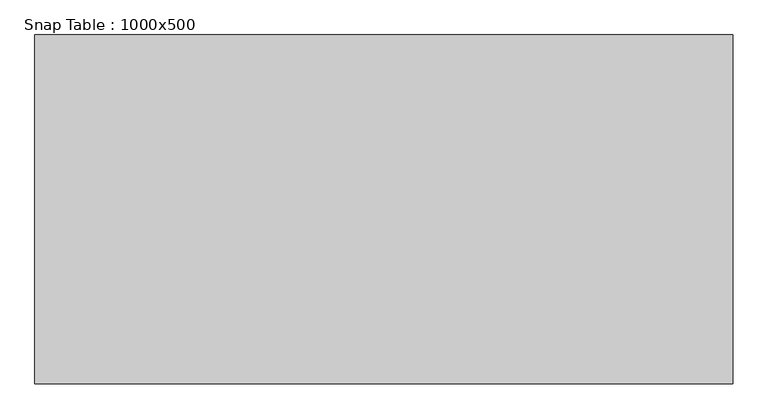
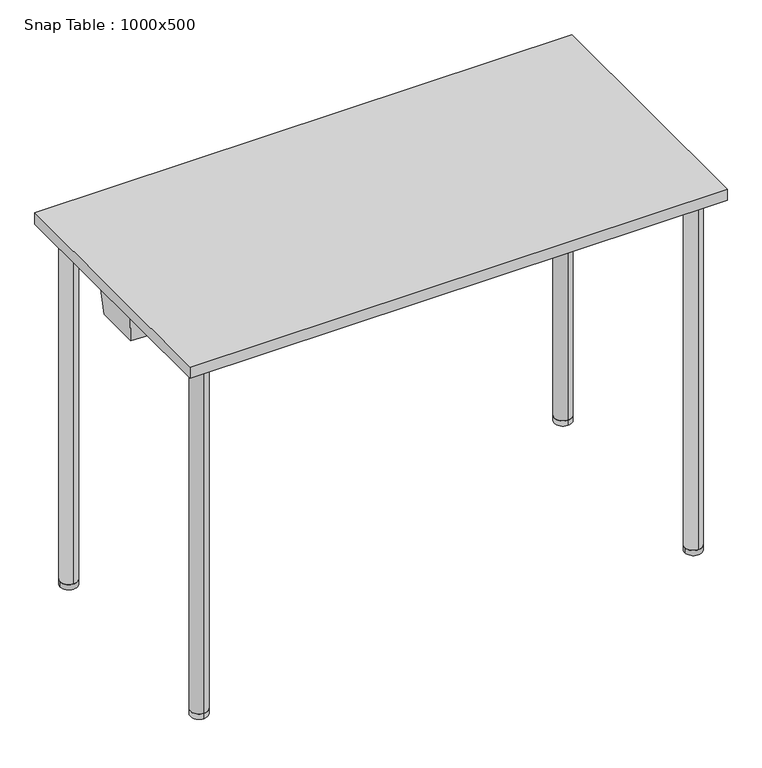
"""IFC4 building model written with IfcOpenShell, lengths in millimetres: furniture geometry, Snap Table : 1000x500."""

from ifc_helpers import new_model, si_unit, point, frame, frame_2d, origin, origin_with_axes, place, context, project, spatial, polyline, circle_curve, ellipse_curve, trimmed, segment, composite_curve, outline, extrude, faceted_brep, source, transform, mapped, element, save
from ifc_brep_helpers import plane_surface, cylinder_surface, revolved_surface, advanced_brep


def snap_table_1000x500_2eb462ae(model_context):
    return source(origin(), model_context, "Body", "SolidModel", [
        extrude(outline(composite_curve([segment(trimmed(circle_curve(frame_2d((460.0, -210.0)), 16.0), [point((476.0, -210.0))], [point((444.0, -210.0))], False, "CARTESIAN"), True, "CONTINUOUS"), segment(trimmed(circle_curve(frame_2d((460.0, -210.0)), 16.0), [point((444.0, -210.0))], [point((476.0, -210.0))], False, "CARTESIAN"), True, "CONTINUOUS")], self_intersect=False)), origin_with_axes(), (0.0, 0.0, 1.0), 10.0),
        extrude(outline(composite_curve([segment(trimmed(circle_curve(frame_2d((460.0, 210.0)), 16.0), [point((460.0, 194.0))], [point((460.0, 226.0))], False, "CARTESIAN"), True, "CONTINUOUS"), segment(trimmed(circle_curve(frame_2d((460.0, 210.0)), 16.0), [point((460.0, 226.0))], [point((460.0, 194.0))], False, "CARTESIAN"), True, "CONTINUOUS")], self_intersect=False)), origin_with_axes(), (0.0, 0.0, 1.0), 10.0),
        advanced_brep(
        [(460.0, -226.0, 10.0), (460.0, -194.0, 10.0), (460.0, -226.0, 689.0), (460.0, -194.0, 657.0), (460.0, 226.0, 689.0), (460.0, 194.0, 657.0), (460.0, 226.0, 10.0), (460.0, 194.0, 10.0)],
        [
            (0, 1, circle_curve(frame((460.0, -210.0, 10.0), z_axis=(0.0, 0.0, -1.0), x_axis=(0.0, 1.0, 0.0)), 16.0)),
            (1, 0, circle_curve(frame((460.0, -210.0, 10.0), z_axis=(0.0, 0.0, -1.0), x_axis=(0.0, 1.0, 0.0)), 16.0)),
            (0, 2),
            (2, 3, ellipse_curve(frame((460.0, -210.0, 673.0), z_axis=(0.0, -0.7071067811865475, -0.7071067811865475), x_axis=(0.0, 0.7071067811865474, -0.7071067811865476)), 22.627417, 16.0)),
            (3, 1),
            (3, 2, ellipse_curve(frame((460.0, -210.0, 673.0), z_axis=(0.0, -0.7071067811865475, -0.7071067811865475), x_axis=(0.0, 0.7071067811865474, -0.7071067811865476)), 22.627417, 16.0)),
            (2, 4),
            (4, 5, ellipse_curve(frame((460.0, 210.0, 673.0), z_axis=(0.0, -0.7071067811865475, 0.7071067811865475), x_axis=(0.0, -0.7071067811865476, -0.7071067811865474)), 22.627417, 16.0)),
            (5, 3),
            (5, 4, ellipse_curve(frame((460.0, 210.0, 673.0), z_axis=(0.0, -0.7071067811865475, 0.7071067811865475), x_axis=(0.0, -0.7071067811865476, -0.7071067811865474)), 22.627417, 16.0)),
            (6, 7, circle_curve(frame((460.0, 210.0, 10.0), z_axis=(0.0, 0.0, -1.0), x_axis=(0.0, -1.0, 0.0)), 16.0)),
            (7, 6, circle_curve(frame((460.0, 210.0, 10.0), z_axis=(0.0, 0.0, -1.0), x_axis=(0.0, -1.0, 0.0)), 16.0)),
            (4, 6),
            (7, 5),
        ],
        [
            plane_surface(frame((460.0, -210.0, 10.0), z_axis=(0.0, 0.0, -1.0), x_axis=(-1.0, 0.0, 0.0))),
            cylinder_surface(frame((460.0, -210.0, 10.0), z_axis=(0.0, 0.0, -1.0), x_axis=(0.0, 1.0, 0.0)), 16.0),
            cylinder_surface(frame((460.0, -210.0, 673.0), z_axis=(0.0, -1.0, 0.0), x_axis=(0.0, 0.0, -1.0)), 16.0),
            plane_surface(frame((460.0, 210.0, 10.0), z_axis=(0.0, 0.0, -1.0), x_axis=(-1.0, 0.0, 0.0))),
            cylinder_surface(frame((460.0, 210.0, 673.0), z_axis=(0.0, 0.0, 1.0), x_axis=(0.0, -1.0, 0.0)), 16.0),
        ],
        [
            (0, [[1, 2]]),
            (1, [[-1, 3, 4, 5]]),
            (1, [[-2, -5, 6, -3]]),
            (2, [[-4, 7, 8, 9]]),
            (2, [[-6, -9, 10, -7]]),
            (3, [[11, 12]]),
            (4, [[-8, 13, -12, 14]]),
            (4, [[-10, -14, -11, -13]]),
        ],
    ),
        extrude(outline(composite_curve([segment(trimmed(circle_curve(frame_2d((-460.0470276, 210.0)), 16.0), [point((-476.0470276, 210.0))], [point((-444.0470276, 210.0))], False, "CARTESIAN"), True, "CONTINUOUS"), segment(trimmed(circle_curve(frame_2d((-460.0470276, 210.0)), 16.0), [point((-444.0470276, 210.0))], [point((-476.0470276, 210.0))], False, "CARTESIAN"), True, "CONTINUOUS")], self_intersect=False)), origin_with_axes(), (0.0, 0.0, 1.0), 10.0),
        extrude(outline(composite_curve([segment(trimmed(circle_curve(frame_2d((-460.0470276, -210.0)), 16.0), [point((-460.0470276, -194.0))], [point((-460.0470276, -226.0))], False, "CARTESIAN"), True, "CONTINUOUS"), segment(trimmed(circle_curve(frame_2d((-460.0470276, -210.0)), 16.0), [point((-460.0470276, -226.0))], [point((-460.0470276, -194.0))], False, "CARTESIAN"), True, "CONTINUOUS")], self_intersect=False)), origin_with_axes(), (0.0, 0.0, 1.0), 10.0),
        advanced_brep(
        [(-460.0470276, 226.0, 10.0), (-460.0470276, 194.0, 10.0), (-460.0470276, 226.0, 689.0), (-460.0470276, 194.0, 657.0), (-460.0470276, -226.0, 689.0), (-460.0470276, -194.0, 657.0), (-460.0470276, -226.0, 10.0), (-460.0470276, -194.0, 10.0)],
        [
            (0, 1, circle_curve(frame((-460.0470276, 210.0, 10.0), z_axis=(0.0, 0.0, -1.0), x_axis=(0.0, -1.0, 0.0)), 16.0)),
            (1, 0, circle_curve(frame((-460.0470276, 210.0, 10.0), z_axis=(0.0, 0.0, -1.0), x_axis=(0.0, -1.0, 0.0)), 16.0)),
            (0, 2),
            (2, 3, ellipse_curve(frame((-460.0470276, 210.0, 673.0), z_axis=(0.0, 0.7071067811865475, -0.7071067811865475), x_axis=(0.0, -0.7071067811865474, -0.7071067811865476)), 22.627417, 16.0)),
            (3, 1),
            (3, 2, ellipse_curve(frame((-460.0470276, 210.0, 673.0), z_axis=(0.0, 0.7071067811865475, -0.7071067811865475), x_axis=(0.0, -0.7071067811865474, -0.7071067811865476)), 22.627417, 16.0)),
            (2, 4),
            (4, 5, ellipse_curve(frame((-460.0470276, -210.0, 673.0), z_axis=(0.0, 0.7071067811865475, 0.7071067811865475), x_axis=(0.0, 0.7071067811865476, -0.7071067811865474)), 22.627417, 16.0)),
            (5, 3),
            (5, 4, ellipse_curve(frame((-460.0470276, -210.0, 673.0), z_axis=(0.0, 0.7071067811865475, 0.7071067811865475), x_axis=(0.0, 0.7071067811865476, -0.7071067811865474)), 22.627417, 16.0)),
            (6, 7, circle_curve(frame((-460.0470276, -210.0, 10.0), z_axis=(0.0, 0.0, -1.0), x_axis=(0.0, 1.0, 0.0)), 16.0)),
            (7, 6, circle_curve(frame((-460.0470276, -210.0, 10.0), z_axis=(0.0, 0.0, -1.0), x_axis=(0.0, 1.0, 0.0)), 16.0)),
            (4, 6),
            (7, 5),
        ],
        [
            plane_surface(frame((-460.0470276, 210.0, 10.0), z_axis=(0.0, 0.0, -1.0), x_axis=(1.0, 0.0, 0.0))),
            cylinder_surface(frame((-460.0470276, 210.0, 10.0), z_axis=(0.0, 0.0, -1.0), x_axis=(0.0, -1.0, 0.0)), 16.0),
            cylinder_surface(frame((-460.0470276, 210.0, 673.0), z_axis=(0.0, 1.0, 0.0), x_axis=(0.0, 0.0, -1.0)), 16.0),
            plane_surface(frame((-460.0470276, -210.0, 10.0), z_axis=(0.0, 0.0, -1.0), x_axis=(1.0, 0.0, 0.0))),
            cylinder_surface(frame((-460.0470276, -210.0, 673.0), z_axis=(0.0, 0.0, 1.0), x_axis=(0.0, 1.0, 0.0)), 16.0),
        ],
        [
            (0, [[1, 2]]),
            (1, [[-1, 3, 4, 5]]),
            (1, [[-2, -5, 6, -3]]),
            (2, [[-4, 7, 8, 9]]),
            (2, [[-6, -9, 10, -7]]),
            (3, [[11, 12]]),
            (4, [[-8, 13, -12, 14]]),
            (4, [[-10, -14, -11, -13]]),
        ],
    ),
        extrude(outline(polyline([(500.0, 250.0), (500.0, -250.0), (-500.0, -250.0), (-500.0, 250.0), (500.0, 250.0)])), frame((0.0, 0.0, 698.0), z_axis=(0.0, 0.0, 1.0), x_axis=(1.0, 0.0, 0.0)), (0.0, 0.0, 1.0), 22.0),
        advanced_brep(
        [(-490.8110657, 42.2236058, 643.0), (-457.6910354, 44.5767873, 643.0), (-440.5708933, 36.0824003, 643.0), (440.5710292, 36.0824678, 643.0), (457.6910354, 44.5767873, 643.0), (490.8110657, 42.2236058, 643.0), (490.8110657, -42.2236058, 643.0), (457.6044607, -44.2417031, 643.0), (440.4018781, -36.0497649, 643.0), (-440.4020196, -36.0498323, 643.0), (-457.6044607, -44.2417031, 643.0), (-490.8110657, -42.2236058, 643.0), (-494.8110657, 48.9570516, 698.0), (-494.8110657, -48.9934252, 698.0), (-456.225892, -51.3383995, 698.0), (-434.6205129, -41.049832, 698.0), (434.6203726, -41.0497654, 698.0), (456.225892, -51.3383995, 698.0), (494.8110657, -48.9934252, 698.0), (494.8110657, 48.9570516, 698.0), (456.286594, 51.6942192, 698.0), (434.8989768, 41.0824675, 698.0), (-434.8988421, 41.0824008, 698.0), (-456.286594, 51.6942192, 698.0), (-457.2475737, -46.0789118, 657.2385232), (-476.0, -46.9489596, 673.0), (-456.4614069, -50.125999, 688.6037931), (-444.0, -41.9922101, 673.0), (457.2475737, -46.0789118, 657.2385232), (444.0, -41.9922101, 673.0), (456.4614069, -50.125999, 688.6037931), (476.0, -46.9489596, 673.0), (457.3278029, 46.4175782, 657.2247231), (476.0, 47.1037405, 673.0), (456.5261576, 50.4801582, 688.618336), (444.0, 42.0461233, 673.0), (-457.3278029, 46.4175782, 657.2247231), (-444.0, 42.0461233, 673.0), (-456.5261576, 50.4801582, 688.618336), (-476.0, 47.1037405, 673.0)],
        [
            (0, 1),
            (1, 2),
            (2, 3),
            (3, 4),
            (4, 5),
            (5, 6),
            (6, 7),
            (7, 8),
            (8, 9),
            (9, 10),
            (10, 11),
            (11, 0),
            (12, 13),
            (13, 14),
            (14, 15),
            (15, 16),
            (16, 17),
            (17, 18),
            (18, 19),
            (19, 20),
            (20, 21),
            (21, 22),
            (22, 23),
            (23, 12),
            (11, 13),
            (12, 0),
            (10, 24),
            (24, 25, ellipse_curve(frame((-460.0, -47.9213432, 673.0), z_axis=(0.0601766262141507, 0.9901710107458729, 0.126254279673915), x_axis=(0.42602826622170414, -0.13986196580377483, 0.8938336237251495)), 16.1588249, 16.0)),
            (25, 26, ellipse_curve(frame((-460.0, -47.9213432, 673.0), z_axis=(0.0601766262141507, 0.9901710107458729, 0.126254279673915), x_axis=(0.42602826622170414, -0.13986196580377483, 0.8938336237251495)), 16.1588249, 16.0)),
            (26, 14),
            (9, 15),
            (26, 27, ellipse_curve(frame((-460.0, -49.6114737, 673.0), z_axis=(-0.42650306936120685, 0.8956310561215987, 0.1262542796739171), x_axis=(-0.8587935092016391, -0.4447977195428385, 0.2542217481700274)), 17.8644989, 16.0)),
            (27, 24, ellipse_curve(frame((-460.0, -49.6114737, 673.0), z_axis=(-0.42650306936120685, 0.8956310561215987, 0.1262542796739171), x_axis=(-0.8587935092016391, -0.4447977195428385, 0.2542217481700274)), 17.8644989, 16.0)),
            (8, 16),
            (7, 28),
            (28, 29, ellipse_curve(frame((460.0, -49.6114737, 673.0), z_axis=(0.42650306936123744, 0.8956310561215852, 0.12625427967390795), x_axis=(0.8587935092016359, -0.4447977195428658, 0.25422174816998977)), 17.8644989, 16.0)),
            (29, 30, ellipse_curve(frame((460.0, -49.6114737, 673.0), z_axis=(0.42650306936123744, 0.8956310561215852, 0.12625427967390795), x_axis=(0.8587935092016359, -0.4447977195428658, 0.25422174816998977)), 17.8644989, 16.0)),
            (30, 17),
            (6, 18),
            (30, 31, ellipse_curve(frame((460.0, -47.9213432, 673.0), z_axis=(-0.06017662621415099, 0.9901710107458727, 0.12625427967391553), x_axis=(-0.4260282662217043, -0.13986196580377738, 0.8938336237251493)), 16.1588249, 16.0)),
            (31, 28, ellipse_curve(frame((460.0, -47.9213432, 673.0), z_axis=(-0.06017662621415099, 0.9901710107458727, 0.12625427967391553), x_axis=(-0.4260282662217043, -0.13986196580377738, 0.8938336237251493)), 16.1588249, 16.0)),
            (5, 19),
            (4, 32),
            (32, 33, ellipse_curve(frame((460.0, 48.2405422, 673.0), z_axis=(-0.07030432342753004, -0.9895034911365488, 0.12625427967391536), x_axis=(0.48139832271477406, -0.14450896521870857, -0.8645072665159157)), 16.1697257, 16.0)),
            (33, 34, ellipse_curve(frame((460.0, 48.2405422, 673.0), z_axis=(-0.07030432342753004, -0.9895034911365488, 0.12625427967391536), x_axis=(0.48139832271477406, -0.14450896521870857, -0.8645072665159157)), 16.1697257, 16.0)),
            (34, 20),
            (3, 21),
            (34, 35, ellipse_curve(frame((460.0, 49.9847369, 673.0), z_axis=(0.44090536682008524, -0.8886294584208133, 0.12625427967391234), x_axis=(-0.854294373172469, -0.4586258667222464, -0.2446291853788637)), 18.005255, 16.0)),
            (35, 32, ellipse_curve(frame((460.0, 49.9847369, 673.0), z_axis=(0.44090536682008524, -0.8886294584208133, 0.12625427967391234), x_axis=(-0.854294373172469, -0.4586258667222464, -0.2446291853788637)), 18.005255, 16.0)),
            (2, 22),
            (1, 36),
            (36, 37, ellipse_curve(frame((-460.0, 49.9847369, 673.0), z_axis=(-0.4409053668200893, -0.88862945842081, 0.12625427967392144), x_axis=(0.8542943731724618, -0.4586258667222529, -0.24462918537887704)), 18.005255, 16.0)),
            (37, 38, ellipse_curve(frame((-460.0, 49.9847369, 673.0), z_axis=(-0.4409053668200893, -0.88862945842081, 0.12625427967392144), x_axis=(0.8542943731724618, -0.4586258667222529, -0.24462918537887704)), 18.005255, 16.0)),
            (38, 23),
            (38, 39, ellipse_curve(frame((-460.0, 48.2405422, 673.0), z_axis=(0.07030432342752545, -0.9895034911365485, 0.12625427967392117), x_axis=(-0.481398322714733, -0.14450896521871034, -0.8645072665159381)), 16.1697257, 16.0)),
            (39, 36, ellipse_curve(frame((-460.0, 48.2405422, 673.0), z_axis=(0.07030432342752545, -0.9895034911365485, 0.12625427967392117), x_axis=(-0.481398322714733, -0.14450896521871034, -0.8645072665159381)), 16.1697257, 16.0)),
            (35, 29),
            (31, 33),
            (39, 25),
            (27, 37),
        ],
        [
            plane_surface(frame((-5e-07, 0.0612866, 643.0), z_axis=(0.0, 0.0, -1.0), x_axis=(0.0, -1.0, 0.0))),
            plane_surface(frame((-5e-07, 0.0586803, 698.0), z_axis=(0.0, 0.0, 1.0), x_axis=(0.0, -1.0, 0.0))),
            plane_surface(frame((-494.8110657, -0.0181868, 698.0), z_axis=(-0.997365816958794, 0.0, -0.07253569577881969), x_axis=(0.0, 1.0, 0.0))),
            plane_surface(frame((-475.5184789, -50.1659123, 698.0), z_axis=(-0.0601766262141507, -0.9901710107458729, -0.126254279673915), x_axis=(-0.9981583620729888, 0.06066204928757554, 0.0))),
            plane_surface(frame((-445.4232025, -46.1941158, 698.0), z_axis=(0.42650306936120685, -0.8956310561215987, -0.1262542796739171), x_axis=(-0.9028557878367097, -0.4299435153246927, 0.0))),
            plane_surface(frame((-7.01e-05, -41.0497986, 698.0), z_axis=(7.621604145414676e-08, -0.9958932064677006, -0.09053574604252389), x_axis=(-0.9999999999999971, -7.653033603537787e-08, 0.0))),
            plane_surface(frame((445.4231323, -46.1940824, 698.0), z_axis=(-0.42650306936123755, -0.8956310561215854, -0.12625427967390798), x_axis=(-0.9028557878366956, 0.4299435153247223, 0.0))),
            plane_surface(frame((475.5184789, -50.1659123, 698.0), z_axis=(0.060176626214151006, -0.9901710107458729, -0.12625427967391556), x_axis=(-0.9981583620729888, -0.06066204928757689, 0.0))),
            plane_surface(frame((494.8110657, -0.0181868, 698.0), z_axis=(0.9973658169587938, 0.0, -0.07253569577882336), x_axis=(0.0, -1.0, 0.0))),
            plane_surface(frame((475.5488298, 50.3256354, 698.0), z_axis=(0.07030432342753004, 0.9895034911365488, -0.12625427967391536), x_axis=(0.9974854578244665, -0.07087144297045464, 0.0))),
            plane_surface(frame((445.5927854, 46.3883433, 698.0), z_axis=(-0.44090536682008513, 0.8886294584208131, -0.1262542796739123), x_axis=(0.8957977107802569, 0.44446199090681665, 0.0))),
            plane_surface(frame((6.73e-05, 41.082434, 698.0), z_axis=(-7.620690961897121e-08, 0.995893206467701, -0.09053574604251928), x_axis=(0.9999999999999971, 7.652116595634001e-08, 0.0))),
            plane_surface(frame((-445.5927181, 46.3883099, 698.0), z_axis=(0.4409053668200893, 0.88862945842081, -0.12625427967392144), x_axis=(0.8957977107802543, -0.4444619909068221, 0.0))),
            plane_surface(frame((-475.5488298, 50.3256354, 698.0), z_axis=(-0.07030432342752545, 0.9895034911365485, -0.12625427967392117), x_axis=(0.997485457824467, 0.07087144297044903, 0.0))),
            revolved_surface(polyline([(476.0, -57.55756207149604, 673.0), (476.0, 58.24241257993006, 673.0)]), (460.0, 70.0, 673.0), (0.0, -1.0, 0.0)),
            revolved_surface(polyline([(-476.0, -57.55756207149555, 673.0), (-476.0, 58.242412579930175, 673.0)]), (-460.0, 70.0, 673.0), (0.0, -1.0, 0.0)),
        ],
        [
            (0, [[1, 2, 3, 4, 5, 6, 7, 8, 9, 10, 11, 12]]),
            (1, [[13, 14, 15, 16, 17, 18, 19, 20, 21, 22, 23, 24]]),
            (2, [[-12, 25, -13, 26]]),
            (3, [[-11, 27, 28, 29, 30, -14, -25]]),
            (4, [[-10, 31, -15, -30, 32, 33, -27]]),
            (5, [[-9, 34, -16, -31]]),
            (6, [[-8, 35, 36, 37, 38, -17, -34]]),
            (7, [[-7, 39, -18, -38, 40, 41, -35]]),
            (8, [[-6, 42, -19, -39]]),
            (9, [[-5, 43, 44, 45, 46, -20, -42]]),
            (10, [[-4, 47, -21, -46, 48, 49, -43]]),
            (11, [[-3, 50, -22, -47]]),
            (12, [[-2, 51, 52, 53, 54, -23, -50]]),
            (13, [[-1, -26, -24, -54, 55, 56, -51]]),
            (14, [[57, -36, -41, 58, -44, -49]]),
            (14, [[-57, -48, -45, -58, -40, -37]]),
            (15, [[59, -28, -33, 60, -52, -56]]),
            (15, [[-59, -55, -53, -60, -32, -29]]),
        ],
    ),
        faceted_brep([(430.1271057, 132.1409864, 643.0), (430.1271057, 177.0366315, 643.0), (441.3990784, 177.0366315, 643.0), (441.3990784, 132.1409864, 643.0), (426.2186584, 128.0138349, 688.0), (444.2631531, 128.0138349, 688.0), (444.2631531, 181.163783, 688.0), (426.2186584, 181.163783, 688.0)], [[[0, 1, 2, 3]], [[4, 5, 6, 7]], [[5, 4, 0, 3]], [[6, 5, 3, 2]], [[7, 6, 2, 1]], [[4, 7, 1, 0]]]),
        extrude(outline(polyline([(426.2186584, 181.163783), (477.86026, 181.163783), (477.86026, 128.0138349), (426.2186584, 128.0138349), (426.2186584, 181.163783)])), frame((0.0, 0.0, 688.0), z_axis=(0.0, 0.0, 1.0), x_axis=(1.0, 0.0, 0.0)), (0.0, 0.0, 1.0), 10.0),
        faceted_brep([(430.1271057, -132.1409864, 643.0), (441.3990784, -132.1409864, 643.0), (441.3990784, -177.0366315, 643.0), (430.1271057, -177.0366315, 643.0), (426.2186584, -128.0138349, 688.0), (426.2186584, -181.163783, 688.0), (444.2631531, -181.163783, 688.0), (444.2631531, -128.0138349, 688.0)], [[[0, 1, 2, 3]], [[4, 5, 6, 7]], [[4, 7, 1, 0]], [[7, 6, 2, 1]], [[6, 5, 3, 2]], [[5, 4, 0, 3]]]),
        extrude(outline(polyline([(426.2186584, -181.163783), (426.2186584, -128.0138349), (477.86026, -128.0138349), (477.86026, -181.163783), (426.2186584, -181.163783)])), frame((0.0, 0.0, 688.0), z_axis=(0.0, 0.0, 1.0), x_axis=(1.0, 0.0, 0.0)), (0.0, 0.0, 1.0), 10.0),
        faceted_brep([(-430.1271057, 132.1409864, 643.0), (-441.3990784, 132.1409864, 643.0), (-441.3990784, 177.0366315, 643.0), (-430.1271057, 177.0366315, 643.0), (-426.2186584, 128.0138349, 688.0), (-426.2186584, 181.163783, 688.0), (-444.2631531, 181.163783, 688.0), (-444.2631531, 128.0138349, 688.0)], [[[0, 1, 2, 3]], [[4, 5, 6, 7]], [[4, 7, 1, 0]], [[7, 6, 2, 1]], [[6, 5, 3, 2]], [[5, 4, 0, 3]]]),
        extrude(outline(polyline([(-426.2186584, 181.163783), (-426.2186584, 128.0138349), (-477.86026, 128.0138349), (-477.86026, 181.163783), (-426.2186584, 181.163783)])), frame((0.0, 0.0, 688.0), z_axis=(0.0, 0.0, 1.0), x_axis=(1.0, 0.0, 0.0)), (0.0, 0.0, 1.0), 10.0),
        faceted_brep([(-430.1271057, -132.1409864, 643.0), (-430.1271057, -177.0366315, 643.0), (-441.3990784, -177.0366315, 643.0), (-441.3990784, -132.1409864, 643.0), (-426.2186584, -128.0138349, 688.0), (-444.2631531, -128.0138349, 688.0), (-444.2631531, -181.163783, 688.0), (-426.2186584, -181.163783, 688.0)], [[[0, 1, 2, 3]], [[4, 5, 6, 7]], [[5, 4, 0, 3]], [[6, 5, 3, 2]], [[7, 6, 2, 1]], [[4, 7, 1, 0]]]),
        extrude(outline(polyline([(-426.2186584, -181.163783), (-477.86026, -181.163783), (-477.86026, -128.0138349), (-426.2186584, -128.0138349), (-426.2186584, -181.163783)])), frame((0.0, 0.0, 688.0), z_axis=(0.0, 0.0, 1.0), x_axis=(1.0, 0.0, 0.0)), (0.0, 0.0, 1.0), 10.0),
    ])


if __name__ == "__main__":
    model = new_model("IFC4")
    model_context = context("Model", 3, world=origin())
    ifc_project = project(units=[si_unit("LENGTHUNIT", "METRE", prefix="MILLI")], contexts=[model_context])
    site = spatial("IfcSite", under=ifc_project)
    building = spatial("IfcBuilding", under=site)
    placement = place(None, origin())
    snap_table_1000x500_shape = snap_table_1000x500_2eb462ae(model_context)
    element("IfcFurniture", 1, ObjectType="Snap Table : 1000x500", at=placement, inside=building, context=model_context, shape_type="MappedRepresentation", body=[
        mapped(snap_table_1000x500_shape, transform((0.0, 0.0, 0.0), x_axis=(1.0, 0.0, 0.0), y_axis=(0.0, 1.0, 0.0), z_axis=(0.0, 0.0, 1.0))),
    ])
    save(model, "model.ifc")
